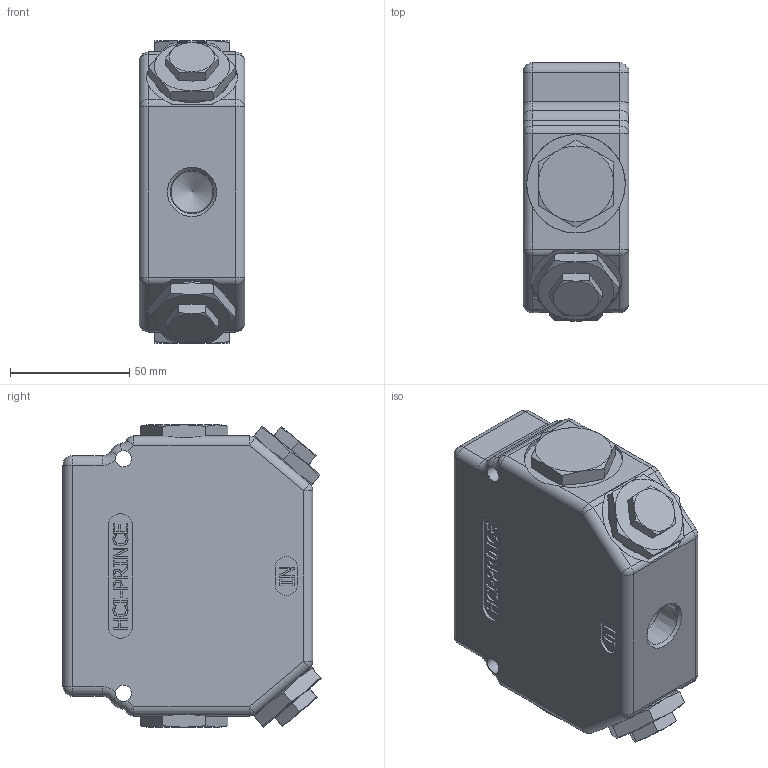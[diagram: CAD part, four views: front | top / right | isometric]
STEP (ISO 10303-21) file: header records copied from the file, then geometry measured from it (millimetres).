
FILE_DESCRIPTION((''),'2;1');
FILE_NAME('C:\Vault\Workspace\z_ShellModels\Misc_RD_RV\RD-350-16_Shell.stp','2012-03-19T10:59:20',('PetersW'),(''),'Autodesk Inventor 2012','Autodesk Inventor 2012','');
FILE_SCHEMA(('AUTOMOTIVE_DESIGN { 1 0 10303 214 1 1 1 1 }'));
Length unit declared in the file: inch
Products named in the file (1): Part3
Bounding box: 44.45 x 108.26 x 126.9 mm (x, y, z)
Volume: 501857.6 mm3; surface area: 51556.5 mm2
Topology: 1 solids, 3 shells, 665 faces, 1715 edges, 1098 vertices
Faces by surface type: plane 378, bspline 127, cone 83, cylinder 53, sphere 16, torus 8
Full cylindrical faces by diameter (mm): 6.731 x2, 17.475 x3, 19.558 x2, 31.75 x2, 41.275 x2
Entity records: 21058 total; most frequent: CARTESIAN_POINT 5549, ORIENTED_EDGE 3350, DIRECTION 2556, EDGE_CURVE 1675, VERTEX_POINT 1081, VECTOR 1044, LINE 1044, AXIS2_PLACEMENT_3D 756
